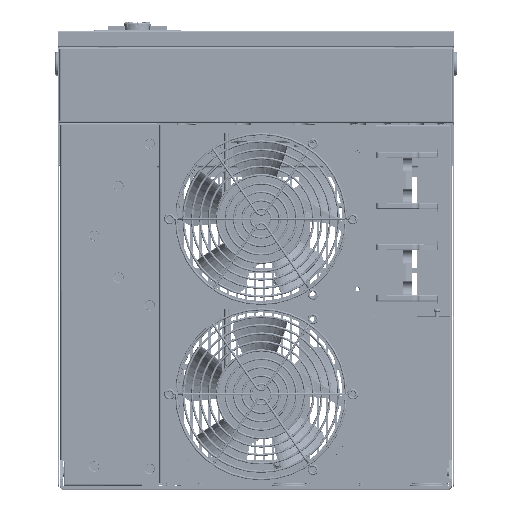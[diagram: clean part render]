
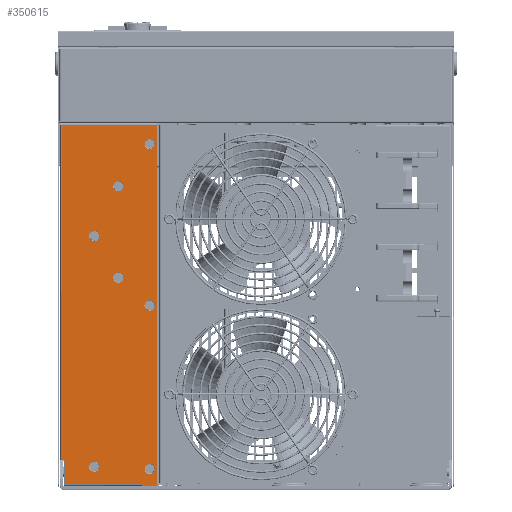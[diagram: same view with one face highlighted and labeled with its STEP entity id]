
A CAD part, top view. The second image highlights one B-rep face of the part: STEP entity #350615.
In plain terms, the highlighted planar face has unit normal (0, 0, 1).
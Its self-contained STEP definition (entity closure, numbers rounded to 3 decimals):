
#18028=FACE_BOUND('',#58687,.T.);
#18029=FACE_BOUND('',#58688,.T.);
#18030=FACE_BOUND('',#58689,.T.);
#18031=FACE_BOUND('',#58690,.T.);
#18032=FACE_BOUND('',#58691,.T.);
#18033=FACE_BOUND('',#58692,.T.);
#18034=FACE_BOUND('',#58693,.T.);
#23623=CIRCLE('',#374969,4.6);
#23624=CIRCLE('',#374970,4.6);
#23625=CIRCLE('',#374971,4.6);
#23626=CIRCLE('',#374972,4.6);
#23627=CIRCLE('',#374973,4.6);
#23628=CIRCLE('',#374974,4.6);
#23629=CIRCLE('',#374975,4.6);
#38583=FACE_OUTER_BOUND('',#58686,.T.);
#58686=EDGE_LOOP('',(#293551,#293552,#293553,#293554,#293555,#293556,#293557,
#293558,#293559,#293560));
#58687=EDGE_LOOP('',(#293561));
#58688=EDGE_LOOP('',(#293562));
#58689=EDGE_LOOP('',(#293563));
#58690=EDGE_LOOP('',(#293564));
#58691=EDGE_LOOP('',(#293565));
#58692=EDGE_LOOP('',(#293566));
#58693=EDGE_LOOP('',(#293567));
#89609=LINE('',#604926,#126775);
#89620=LINE('',#604960,#126786);
#89622=LINE('',#604963,#126788);
#89623=LINE('',#604965,#126789);
#89624=LINE('',#604966,#126790);
#89625=LINE('',#604968,#126791);
#89626=LINE('',#604970,#126792);
#89627=LINE('',#604971,#126793);
#89628=LINE('',#604973,#126794);
#89629=LINE('',#604974,#126795);
#126775=VECTOR('',#442693,1.7);
#126786=VECTOR('',#442722,2.);
#126788=VECTOR('',#442726,1.7);
#126789=VECTOR('',#442729,19.);
#126790=VECTOR('',#442730,67.3);
#126791=VECTOR('',#442731,13.7);
#126792=VECTOR('',#442732,319.3);
#126793=VECTOR('',#442733,83.8);
#126794=VECTOR('',#442734,296.6);
#126795=VECTOR('',#442735,1.1);
#165401=VERTEX_POINT('',#604865);
#165404=VERTEX_POINT('',#604872);
#165407=VERTEX_POINT('',#604879);
#165411=VERTEX_POINT('',#604888);
#165419=VERTEX_POINT('',#604924);
#165432=VERTEX_POINT('',#604957);
#165433=VERTEX_POINT('',#604959);
#165434=VERTEX_POINT('',#604967);
#165435=VERTEX_POINT('',#604969);
#165436=VERTEX_POINT('',#604972);
#165437=VERTEX_POINT('',#604975);
#165438=VERTEX_POINT('',#604977);
#165439=VERTEX_POINT('',#604979);
#165440=VERTEX_POINT('',#604981);
#165441=VERTEX_POINT('',#604983);
#165442=VERTEX_POINT('',#604985);
#165443=VERTEX_POINT('',#604987);
#209658=EDGE_CURVE('',#165404,#165419,#89609,.T.);
#209676=EDGE_CURVE('',#165432,#165433,#89620,.T.);
#209678=EDGE_CURVE('',#165407,#165432,#89622,.T.);
#209679=EDGE_CURVE('',#165401,#165407,#89623,.T.);
#209680=EDGE_CURVE('',#165404,#165401,#89624,.T.);
#209681=EDGE_CURVE('',#165419,#165434,#89625,.T.);
#209682=EDGE_CURVE('',#165434,#165435,#89626,.T.);
#209683=EDGE_CURVE('',#165411,#165435,#89627,.T.);
#209684=EDGE_CURVE('',#165436,#165411,#89628,.T.);
#209685=EDGE_CURVE('',#165436,#165433,#89629,.T.);
#209686=EDGE_CURVE('',#165437,#165437,#23623,.T.);
#209687=EDGE_CURVE('',#165438,#165438,#23624,.T.);
#209688=EDGE_CURVE('',#165439,#165439,#23625,.T.);
#209689=EDGE_CURVE('',#165440,#165440,#23626,.T.);
#209690=EDGE_CURVE('',#165441,#165441,#23627,.T.);
#209691=EDGE_CURVE('',#165442,#165442,#23628,.T.);
#209692=EDGE_CURVE('',#165443,#165443,#23629,.T.);
#293551=ORIENTED_EDGE('',*,*,#209676,.F.);
#293552=ORIENTED_EDGE('',*,*,#209678,.F.);
#293553=ORIENTED_EDGE('',*,*,#209679,.F.);
#293554=ORIENTED_EDGE('',*,*,#209680,.F.);
#293555=ORIENTED_EDGE('',*,*,#209658,.T.);
#293556=ORIENTED_EDGE('',*,*,#209681,.T.);
#293557=ORIENTED_EDGE('',*,*,#209682,.T.);
#293558=ORIENTED_EDGE('',*,*,#209683,.F.);
#293559=ORIENTED_EDGE('',*,*,#209684,.F.);
#293560=ORIENTED_EDGE('',*,*,#209685,.T.);
#293561=ORIENTED_EDGE('',*,*,#209686,.T.);
#293562=ORIENTED_EDGE('',*,*,#209687,.T.);
#293563=ORIENTED_EDGE('',*,*,#209688,.T.);
#293564=ORIENTED_EDGE('',*,*,#209689,.T.);
#293565=ORIENTED_EDGE('',*,*,#209690,.T.);
#293566=ORIENTED_EDGE('',*,*,#209691,.T.);
#293567=ORIENTED_EDGE('',*,*,#209692,.T.);
#332831=PLANE('',#374968);
#350615=ADVANCED_FACE('',(#38583,#18028,#18029,#18030,#18031,#18032,#18033,
#18034),#332831,.T.);
#374968=AXIS2_PLACEMENT_3D('',#604964,#442727,#442728);
#374969=AXIS2_PLACEMENT_3D('',#604976,#442736,#442737);
#374970=AXIS2_PLACEMENT_3D('',#604978,#442738,#442739);
#374971=AXIS2_PLACEMENT_3D('',#604980,#442740,#442741);
#374972=AXIS2_PLACEMENT_3D('',#604982,#442742,#442743);
#374973=AXIS2_PLACEMENT_3D('',#604984,#442744,#442745);
#374974=AXIS2_PLACEMENT_3D('',#604986,#442746,#442747);
#374975=AXIS2_PLACEMENT_3D('',#604988,#442748,#442749);
#442693=DIRECTION('',(0.,-1.,0.));
#442722=DIRECTION('',(0.,1.,0.));
#442726=DIRECTION('',(-1.,0.,0.));
#442727=DIRECTION('center_axis',(0.,0.,1.));
#442728=DIRECTION('ref_axis',(1.,0.,0.));
#442729=DIRECTION('',(0.,1.,0.));
#442730=DIRECTION('',(-1.,0.,0.));
#442731=DIRECTION('',(1.,0.,0.));
#442732=DIRECTION('',(0.,1.,0.));
#442733=DIRECTION('',(1.,0.,0.));
#442734=DIRECTION('',(0.,1.,0.));
#442735=DIRECTION('',(1.,0.,0.));
#442736=DIRECTION('center_axis',(0.,0.,-1.));
#442737=DIRECTION('ref_axis',(-1.,0.,0.));
#442738=DIRECTION('center_axis',(0.,0.,-1.));
#442739=DIRECTION('ref_axis',(-1.,0.,0.));
#442740=DIRECTION('center_axis',(0.,0.,-1.));
#442741=DIRECTION('ref_axis',(-1.,0.,0.));
#442742=DIRECTION('center_axis',(0.,0.,-1.));
#442743=DIRECTION('ref_axis',(-1.,0.,0.));
#442744=DIRECTION('center_axis',(0.,0.,-1.));
#442745=DIRECTION('ref_axis',(-1.,0.,0.));
#442746=DIRECTION('center_axis',(0.,0.,-1.));
#442747=DIRECTION('ref_axis',(-1.,0.,0.));
#442748=DIRECTION('center_axis',(0.,0.,-1.));
#442749=DIRECTION('ref_axis',(-1.,0.,0.));
#604865=CARTESIAN_POINT('',(-168.5,4.2,339.5));
#604872=CARTESIAN_POINT('',(-101.2,4.2,339.5));
#604879=CARTESIAN_POINT('',(-168.5,23.2,339.5));
#604888=CARTESIAN_POINT('',(-171.3,321.8,339.5));
#604924=CARTESIAN_POINT('',(-101.2,2.5,339.5));
#604926=CARTESIAN_POINT('',(-101.2,4.2,339.5));
#604957=CARTESIAN_POINT('',(-170.2,23.2,339.5));
#604959=CARTESIAN_POINT('',(-170.2,25.2,339.5));
#604960=CARTESIAN_POINT('',(-170.2,23.2,339.5));
#604963=CARTESIAN_POINT('',(-168.5,23.2,339.5));
#604964=CARTESIAN_POINT('Origin',(0.,0.,339.5));
#604965=CARTESIAN_POINT('',(-168.5,4.2,339.5));
#604966=CARTESIAN_POINT('',(-101.2,4.2,339.5));
#604967=CARTESIAN_POINT('',(-87.5,2.5,339.5));
#604968=CARTESIAN_POINT('',(-101.2,2.5,339.5));
#604969=CARTESIAN_POINT('',(-87.5,321.8,339.5));
#604970=CARTESIAN_POINT('',(-87.5,2.5,339.5));
#604971=CARTESIAN_POINT('',(-171.3,321.8,339.5));
#604972=CARTESIAN_POINT('',(-171.3,25.2,339.5));
#604973=CARTESIAN_POINT('',(-171.3,25.2,339.5));
#604974=CARTESIAN_POINT('',(-171.3,25.2,339.5));
#604975=CARTESIAN_POINT('',(-94.,309.4,339.5));
#604976=CARTESIAN_POINT('Origin',(-94.,304.8,339.5));
#604977=CARTESIAN_POINT('',(-121.6,191.1,339.5));
#604978=CARTESIAN_POINT('Origin',(-121.6,186.5,339.5));
#604979=CARTESIAN_POINT('',(-94.,22.1,339.5));
#604980=CARTESIAN_POINT('Origin',(-94.,17.5,339.5));
#604981=CARTESIAN_POINT('',(-94.,166.6,339.5));
#604982=CARTESIAN_POINT('Origin',(-94.,162.,339.5));
#604983=CARTESIAN_POINT('',(-121.6,272.1,339.5));
#604984=CARTESIAN_POINT('Origin',(-121.6,267.5,339.5));
#604985=CARTESIAN_POINT('',(-143.,228.1,339.5));
#604986=CARTESIAN_POINT('Origin',(-143.,223.5,339.5));
#604987=CARTESIAN_POINT('',(-143.,24.1,339.5));
#604988=CARTESIAN_POINT('Origin',(-143.,19.5,339.5));
